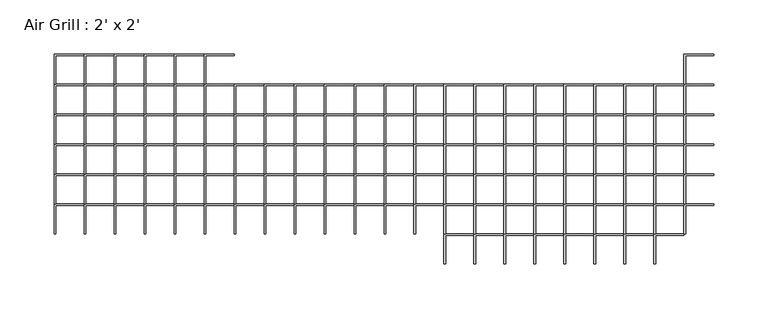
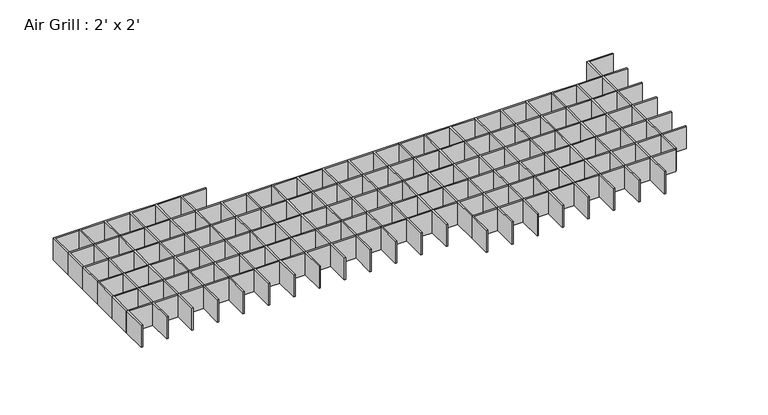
"""IFC4 building model written with IfcOpenShell, lengths in millimetres: proxy geometry, Air Grill : 2' x 2'."""

from ifc_helpers import new_model, si_unit, frame, origin, place, context, project, spatial, polyline, outline, extrude, source, transform, mapped, element, save


def air_grill_2_x_2_69e3441c(model_context):
    return source(origin(), model_context, "Body", "SweptSolid", [
        extrude(outline(polyline([(-166.6153409, 138.9784091), (-138.9784091, 138.9784091), (-138.9784091, 137.3909091), (-165.0278409, 137.3909091), (-165.0278409, 111.3414773), (-166.6153409, 111.3414773), (-166.6153409, 138.9784091)])), frame((0.0, 0.0, 2438.4), z_axis=(0.0, 0.0, 1.0), x_axis=(1.0, 0.0, 0.0)), (0.0, 0.0, 1.0), 25.4),
        extrude(outline(polyline([(-194.2522727, 138.9784091), (-166.6153409, 138.9784091), (-166.6153409, 137.3909091), (-192.6647727, 137.3909091), (-192.6647727, 111.3414773), (-194.2522727, 111.3414773), (-194.2522727, 138.9784091)])), frame((0.0, 0.0, 2438.4), z_axis=(0.0, 0.0, 1.0), x_axis=(1.0, 0.0, 0.0)), (0.0, 0.0, 1.0), 25.4),
        extrude(outline(polyline([(-221.8892045, 138.9784091), (-194.2522727, 138.9784091), (-194.2522727, 137.3909091), (-220.3017045, 137.3909091), (-220.3017045, 111.3414773), (-221.8892045, 111.3414773), (-221.8892045, 138.9784091)])), frame((0.0, 0.0, 2438.4), z_axis=(0.0, 0.0, 1.0), x_axis=(1.0, 0.0, 0.0)), (0.0, 0.0, 1.0), 25.4),
        extrude(outline(polyline([(-249.5261364, 138.9784091), (-221.8892045, 138.9784091), (-221.8892045, 137.3909091), (-247.9386364, 137.3909091), (-247.9386364, 111.3414773), (-249.5261364, 111.3414773), (-249.5261364, 138.9784091)])), frame((0.0, 0.0, 2438.4), z_axis=(0.0, 0.0, 1.0), x_axis=(1.0, 0.0, 0.0)), (0.0, 0.0, 1.0), 25.4),
        extrude(outline(polyline([(-277.1630682, 138.9784091), (-249.5261364, 138.9784091), (-249.5261364, 137.3909091), (-275.5755682, 137.3909091), (-275.5755682, 111.3414773), (-277.1630682, 111.3414773), (-277.1630682, 138.9784091)])), frame((0.0, 0.0, 2438.4), z_axis=(0.0, 0.0, 1.0), x_axis=(1.0, 0.0, 0.0)), (0.0, 0.0, 1.0), 25.4),
        extrude(outline(polyline([(275.5755682, 138.9784091), (303.2125, 138.9784091), (303.2125, 137.3909091), (277.1630682, 137.3909091), (277.1630682, 111.3414773), (275.5755682, 111.3414773), (275.5755682, 138.9784091)])), frame((0.0, 0.0, 2438.4), z_axis=(0.0, 0.0, 1.0), x_axis=(1.0, 0.0, 0.0)), (0.0, 0.0, 1.0), 25.4),
        extrude(outline(polyline([(-304.8, 138.9784091), (-277.1630682, 138.9784091), (-277.1630682, 137.3909091), (-303.2125, 137.3909091), (-303.2125, 111.3414773), (-304.8, 111.3414773), (-304.8, 138.9784091)])), frame((0.0, 0.0, 2438.4), z_axis=(0.0, 0.0, 1.0), x_axis=(1.0, 0.0, 0.0)), (0.0, 0.0, 1.0), 25.4),
        extrude(outline(polyline([(247.9386364, 111.3414773), (275.5755682, 111.3414773), (275.5755682, 109.7539773), (249.5261364, 109.7539773), (249.5261364, 83.7045455), (247.9386364, 83.7045455), (247.9386364, 111.3414773)])), frame((0.0, 0.0, 2438.4), z_axis=(0.0, 0.0, 1.0), x_axis=(1.0, 0.0, 0.0)), (0.0, 0.0, 1.0), 25.4),
        extrude(outline(polyline([(220.3017045, 111.3414773), (247.9386364, 111.3414773), (247.9386364, 109.7539773), (221.8892045, 109.7539773), (221.8892045, 83.7045455), (220.3017045, 83.7045455), (220.3017045, 111.3414773)])), frame((0.0, 0.0, 2438.4), z_axis=(0.0, 0.0, 1.0), x_axis=(1.0, 0.0, 0.0)), (0.0, 0.0, 1.0), 25.4),
        extrude(outline(polyline([(192.6647727, 111.3414773), (220.3017045, 111.3414773), (220.3017045, 109.7539773), (194.2522727, 109.7539773), (194.2522727, 83.7045455), (192.6647727, 83.7045455), (192.6647727, 111.3414773)])), frame((0.0, 0.0, 2438.4), z_axis=(0.0, 0.0, 1.0), x_axis=(1.0, 0.0, 0.0)), (0.0, 0.0, 1.0), 25.4),
        extrude(outline(polyline([(165.0278409, 111.3414773), (192.6647727, 111.3414773), (192.6647727, 109.7539773), (166.6153409, 109.7539773), (166.6153409, 83.7045455), (165.0278409, 83.7045455), (165.0278409, 111.3414773)])), frame((0.0, 0.0, 2438.4), z_axis=(0.0, 0.0, 1.0), x_axis=(1.0, 0.0, 0.0)), (0.0, 0.0, 1.0), 25.4),
        extrude(outline(polyline([(137.3909091, 111.3414773), (165.0278409, 111.3414773), (165.0278409, 109.7539773), (138.9784091, 109.7539773), (138.9784091, 83.7045455), (137.3909091, 83.7045455), (137.3909091, 111.3414773)])), frame((0.0, 0.0, 2438.4), z_axis=(0.0, 0.0, 1.0), x_axis=(1.0, 0.0, 0.0)), (0.0, 0.0, 1.0), 25.4),
        extrude(outline(polyline([(109.7539773, 111.3414773), (137.3909091, 111.3414773), (137.3909091, 109.7539773), (111.3414773, 109.7539773), (111.3414773, 83.7045455), (109.7539773, 83.7045455), (109.7539773, 111.3414773)])), frame((0.0, 0.0, 2438.4), z_axis=(0.0, 0.0, 1.0), x_axis=(1.0, 0.0, 0.0)), (0.0, 0.0, 1.0), 25.4),
        extrude(outline(polyline([(82.1170455, 111.3414773), (109.7539773, 111.3414773), (109.7539773, 109.7539773), (83.7045455, 109.7539773), (83.7045455, 83.7045455), (82.1170455, 83.7045455), (82.1170455, 111.3414773)])), frame((0.0, 0.0, 2438.4), z_axis=(0.0, 0.0, 1.0), x_axis=(1.0, 0.0, 0.0)), (0.0, 0.0, 1.0), 25.4),
        extrude(outline(polyline([(54.4801136, 111.3414773), (82.1170455, 111.3414773), (82.1170455, 109.7539773), (56.0676136, 109.7539773), (56.0676136, 83.7045455), (54.4801136, 83.7045455), (54.4801136, 111.3414773)])), frame((0.0, 0.0, 2438.4), z_axis=(0.0, 0.0, 1.0), x_axis=(1.0, 0.0, 0.0)), (0.0, 0.0, 1.0), 25.4),
        extrude(outline(polyline([(26.8431818, 111.3414773), (54.4801136, 111.3414773), (54.4801136, 109.7539773), (28.4306818, 109.7539773), (28.4306818, 83.7045455), (26.8431818, 83.7045455), (26.8431818, 111.3414773)])), frame((0.0, 0.0, 2438.4), z_axis=(0.0, 0.0, 1.0), x_axis=(1.0, 0.0, 0.0)), (0.0, 0.0, 1.0), 25.4),
        extrude(outline(polyline([(-0.79375, 111.3414773), (26.8431818, 111.3414773), (26.8431818, 109.7539773), (0.79375, 109.7539773), (0.79375, 83.7045455), (-0.79375, 83.7045455), (-0.79375, 111.3414773)])), frame((0.0, 0.0, 2438.4), z_axis=(0.0, 0.0, 1.0), x_axis=(1.0, 0.0, 0.0)), (0.0, 0.0, 1.0), 25.4),
        extrude(outline(polyline([(-28.4306818, 111.3414773), (-0.79375, 111.3414773), (-0.79375, 109.7539773), (-26.8431818, 109.7539773), (-26.8431818, 83.7045455), (-28.4306818, 83.7045455), (-28.4306818, 111.3414773)])), frame((0.0, 0.0, 2438.4), z_axis=(0.0, 0.0, 1.0), x_axis=(1.0, 0.0, 0.0)), (0.0, 0.0, 1.0), 25.4),
        extrude(outline(polyline([(-56.0676136, 111.3414773), (-28.4306818, 111.3414773), (-28.4306818, 109.7539773), (-54.4801136, 109.7539773), (-54.4801136, 83.7045455), (-56.0676136, 83.7045455), (-56.0676136, 111.3414773)])), frame((0.0, 0.0, 2438.4), z_axis=(0.0, 0.0, 1.0), x_axis=(1.0, 0.0, 0.0)), (0.0, 0.0, 1.0), 25.4),
        extrude(outline(polyline([(-83.7045455, 111.3414773), (-56.0676136, 111.3414773), (-56.0676136, 109.7539773), (-82.1170455, 109.7539773), (-82.1170455, 83.7045455), (-83.7045455, 83.7045455), (-83.7045455, 111.3414773)])), frame((0.0, 0.0, 2438.4), z_axis=(0.0, 0.0, 1.0), x_axis=(1.0, 0.0, 0.0)), (0.0, 0.0, 1.0), 25.4),
        extrude(outline(polyline([(-111.3414773, 111.3414773), (-83.7045455, 111.3414773), (-83.7045455, 109.7539773), (-109.7539773, 109.7539773), (-109.7539773, 83.7045455), (-111.3414773, 83.7045455), (-111.3414773, 111.3414773)])), frame((0.0, 0.0, 2438.4), z_axis=(0.0, 0.0, 1.0), x_axis=(1.0, 0.0, 0.0)), (0.0, 0.0, 1.0), 25.4),
        extrude(outline(polyline([(-138.9784091, 111.3414773), (-111.3414773, 111.3414773), (-111.3414773, 109.7539773), (-137.3909091, 109.7539773), (-137.3909091, 83.7045455), (-138.9784091, 83.7045455), (-138.9784091, 111.3414773)])), frame((0.0, 0.0, 2438.4), z_axis=(0.0, 0.0, 1.0), x_axis=(1.0, 0.0, 0.0)), (0.0, 0.0, 1.0), 25.4),
        extrude(outline(polyline([(-166.6153409, 111.3414773), (-138.9784091, 111.3414773), (-138.9784091, 109.7539773), (-165.0278409, 109.7539773), (-165.0278409, 83.7045455), (-166.6153409, 83.7045455), (-166.6153409, 111.3414773)])), frame((0.0, 0.0, 2438.4), z_axis=(0.0, 0.0, 1.0), x_axis=(1.0, 0.0, 0.0)), (0.0, 0.0, 1.0), 25.4),
        extrude(outline(polyline([(-194.2522727, 111.3414773), (-166.6153409, 111.3414773), (-166.6153409, 109.7539773), (-192.6647727, 109.7539773), (-192.6647727, 83.7045455), (-194.2522727, 83.7045455), (-194.2522727, 111.3414773)])), frame((0.0, 0.0, 2438.4), z_axis=(0.0, 0.0, 1.0), x_axis=(1.0, 0.0, 0.0)), (0.0, 0.0, 1.0), 25.4),
        extrude(outline(polyline([(-221.8892045, 111.3414773), (-194.2522727, 111.3414773), (-194.2522727, 109.7539773), (-220.3017045, 109.7539773), (-220.3017045, 83.7045455), (-221.8892045, 83.7045455), (-221.8892045, 111.3414773)])), frame((0.0, 0.0, 2438.4), z_axis=(0.0, 0.0, 1.0), x_axis=(1.0, 0.0, 0.0)), (0.0, 0.0, 1.0), 25.4),
        extrude(outline(polyline([(-249.5261364, 111.3414773), (-221.8892045, 111.3414773), (-221.8892045, 109.7539773), (-247.9386364, 109.7539773), (-247.9386364, 83.7045455), (-249.5261364, 83.7045455), (-249.5261364, 111.3414773)])), frame((0.0, 0.0, 2438.4), z_axis=(0.0, 0.0, 1.0), x_axis=(1.0, 0.0, 0.0)), (0.0, 0.0, 1.0), 25.4),
        extrude(outline(polyline([(-277.1630682, 111.3414773), (-249.5261364, 111.3414773), (-249.5261364, 109.7539773), (-275.5755682, 109.7539773), (-275.5755682, 83.7045455), (-277.1630682, 83.7045455), (-277.1630682, 111.3414773)])), frame((0.0, 0.0, 2438.4), z_axis=(0.0, 0.0, 1.0), x_axis=(1.0, 0.0, 0.0)), (0.0, 0.0, 1.0), 25.4),
        extrude(outline(polyline([(275.5755682, 111.3414773), (303.2125, 111.3414773), (303.2125, 109.7539773), (277.1630682, 109.7539773), (277.1630682, 83.7045455), (275.5755682, 83.7045455), (275.5755682, 111.3414773)])), frame((0.0, 0.0, 2438.4), z_axis=(0.0, 0.0, 1.0), x_axis=(1.0, 0.0, 0.0)), (0.0, 0.0, 1.0), 25.4),
        extrude(outline(polyline([(-304.8, 111.3414773), (-277.1630682, 111.3414773), (-277.1630682, 109.7539773), (-303.2125, 109.7539773), (-303.2125, 83.7045455), (-304.8, 83.7045455), (-304.8, 111.3414773)])), frame((0.0, 0.0, 2438.4), z_axis=(0.0, 0.0, 1.0), x_axis=(1.0, 0.0, 0.0)), (0.0, 0.0, 1.0), 25.4),
        extrude(outline(polyline([(247.9386364, 83.7045455), (275.5755682, 83.7045455), (275.5755682, 82.1170455), (249.5261364, 82.1170455), (249.5261364, 56.0676136), (247.9386364, 56.0676136), (247.9386364, 83.7045455)])), frame((0.0, 0.0, 2438.4), z_axis=(0.0, 0.0, 1.0), x_axis=(1.0, 0.0, 0.0)), (0.0, 0.0, 1.0), 25.4),
        extrude(outline(polyline([(220.3017045, 83.7045455), (247.9386364, 83.7045455), (247.9386364, 82.1170455), (221.8892045, 82.1170455), (221.8892045, 56.0676136), (220.3017045, 56.0676136), (220.3017045, 83.7045455)])), frame((0.0, 0.0, 2438.4), z_axis=(0.0, 0.0, 1.0), x_axis=(1.0, 0.0, 0.0)), (0.0, 0.0, 1.0), 25.4),
        extrude(outline(polyline([(192.6647727, 83.7045455), (220.3017045, 83.7045455), (220.3017045, 82.1170455), (194.2522727, 82.1170455), (194.2522727, 56.0676136), (192.6647727, 56.0676136), (192.6647727, 83.7045455)])), frame((0.0, 0.0, 2438.4), z_axis=(0.0, 0.0, 1.0), x_axis=(1.0, 0.0, 0.0)), (0.0, 0.0, 1.0), 25.4),
        extrude(outline(polyline([(165.0278409, 83.7045455), (192.6647727, 83.7045455), (192.6647727, 82.1170455), (166.6153409, 82.1170455), (166.6153409, 56.0676136), (165.0278409, 56.0676136), (165.0278409, 83.7045455)])), frame((0.0, 0.0, 2438.4), z_axis=(0.0, 0.0, 1.0), x_axis=(1.0, 0.0, 0.0)), (0.0, 0.0, 1.0), 25.4),
        extrude(outline(polyline([(137.3909091, 83.7045455), (165.0278409, 83.7045455), (165.0278409, 82.1170455), (138.9784091, 82.1170455), (138.9784091, 56.0676136), (137.3909091, 56.0676136), (137.3909091, 83.7045455)])), frame((0.0, 0.0, 2438.4), z_axis=(0.0, 0.0, 1.0), x_axis=(1.0, 0.0, 0.0)), (0.0, 0.0, 1.0), 25.4),
        extrude(outline(polyline([(109.7539773, 83.7045455), (137.3909091, 83.7045455), (137.3909091, 82.1170455), (111.3414773, 82.1170455), (111.3414773, 56.0676136), (109.7539773, 56.0676136), (109.7539773, 83.7045455)])), frame((0.0, 0.0, 2438.4), z_axis=(0.0, 0.0, 1.0), x_axis=(1.0, 0.0, 0.0)), (0.0, 0.0, 1.0), 25.4),
        extrude(outline(polyline([(82.1170455, 83.7045455), (109.7539773, 83.7045455), (109.7539773, 82.1170455), (83.7045455, 82.1170455), (83.7045455, 56.0676136), (82.1170455, 56.0676136), (82.1170455, 83.7045455)])), frame((0.0, 0.0, 2438.4), z_axis=(0.0, 0.0, 1.0), x_axis=(1.0, 0.0, 0.0)), (0.0, 0.0, 1.0), 25.4),
        extrude(outline(polyline([(54.4801136, 83.7045455), (82.1170455, 83.7045455), (82.1170455, 82.1170455), (56.0676136, 82.1170455), (56.0676136, 56.0676136), (54.4801136, 56.0676136), (54.4801136, 83.7045455)])), frame((0.0, 0.0, 2438.4), z_axis=(0.0, 0.0, 1.0), x_axis=(1.0, 0.0, 0.0)), (0.0, 0.0, 1.0), 25.4),
        extrude(outline(polyline([(26.8431818, 83.7045455), (54.4801136, 83.7045455), (54.4801136, 82.1170455), (28.4306818, 82.1170455), (28.4306818, 56.0676136), (26.8431818, 56.0676136), (26.8431818, 83.7045455)])), frame((0.0, 0.0, 2438.4), z_axis=(0.0, 0.0, 1.0), x_axis=(1.0, 0.0, 0.0)), (0.0, 0.0, 1.0), 25.4),
        extrude(outline(polyline([(-0.79375, 83.7045455), (26.8431818, 83.7045455), (26.8431818, 82.1170455), (0.79375, 82.1170455), (0.79375, 56.0676136), (-0.79375, 56.0676136), (-0.79375, 83.7045455)])), frame((0.0, 0.0, 2438.4), z_axis=(0.0, 0.0, 1.0), x_axis=(1.0, 0.0, 0.0)), (0.0, 0.0, 1.0), 25.4),
        extrude(outline(polyline([(-28.4306818, 83.7045455), (-0.79375, 83.7045455), (-0.79375, 82.1170455), (-26.8431818, 82.1170455), (-26.8431818, 56.0676136), (-28.4306818, 56.0676136), (-28.4306818, 83.7045455)])), frame((0.0, 0.0, 2438.4), z_axis=(0.0, 0.0, 1.0), x_axis=(1.0, 0.0, 0.0)), (0.0, 0.0, 1.0), 25.4),
        extrude(outline(polyline([(-56.0676136, 83.7045455), (-28.4306818, 83.7045455), (-28.4306818, 82.1170455), (-54.4801136, 82.1170455), (-54.4801136, 56.0676136), (-56.0676136, 56.0676136), (-56.0676136, 83.7045455)])), frame((0.0, 0.0, 2438.4), z_axis=(0.0, 0.0, 1.0), x_axis=(1.0, 0.0, 0.0)), (0.0, 0.0, 1.0), 25.4),
        extrude(outline(polyline([(-83.7045455, 83.7045455), (-56.0676136, 83.7045455), (-56.0676136, 82.1170455), (-82.1170455, 82.1170455), (-82.1170455, 56.0676136), (-83.7045455, 56.0676136), (-83.7045455, 83.7045455)])), frame((0.0, 0.0, 2438.4), z_axis=(0.0, 0.0, 1.0), x_axis=(1.0, 0.0, 0.0)), (0.0, 0.0, 1.0), 25.4),
        extrude(outline(polyline([(-111.3414773, 83.7045455), (-83.7045455, 83.7045455), (-83.7045455, 82.1170455), (-109.7539773, 82.1170455), (-109.7539773, 56.0676136), (-111.3414773, 56.0676136), (-111.3414773, 83.7045455)])), frame((0.0, 0.0, 2438.4), z_axis=(0.0, 0.0, 1.0), x_axis=(1.0, 0.0, 0.0)), (0.0, 0.0, 1.0), 25.4),
        extrude(outline(polyline([(-138.9784091, 83.7045455), (-111.3414773, 83.7045455), (-111.3414773, 82.1170455), (-137.3909091, 82.1170455), (-137.3909091, 56.0676136), (-138.9784091, 56.0676136), (-138.9784091, 83.7045455)])), frame((0.0, 0.0, 2438.4), z_axis=(0.0, 0.0, 1.0), x_axis=(1.0, 0.0, 0.0)), (0.0, 0.0, 1.0), 25.4),
        extrude(outline(polyline([(-166.6153409, 83.7045455), (-138.9784091, 83.7045455), (-138.9784091, 82.1170455), (-165.0278409, 82.1170455), (-165.0278409, 56.0676136), (-166.6153409, 56.0676136), (-166.6153409, 83.7045455)])), frame((0.0, 0.0, 2438.4), z_axis=(0.0, 0.0, 1.0), x_axis=(1.0, 0.0, 0.0)), (0.0, 0.0, 1.0), 25.4),
        extrude(outline(polyline([(-194.2522727, 83.7045455), (-166.6153409, 83.7045455), (-166.6153409, 82.1170455), (-192.6647727, 82.1170455), (-192.6647727, 56.0676136), (-194.2522727, 56.0676136), (-194.2522727, 83.7045455)])), frame((0.0, 0.0, 2438.4), z_axis=(0.0, 0.0, 1.0), x_axis=(1.0, 0.0, 0.0)), (0.0, 0.0, 1.0), 25.4),
        extrude(outline(polyline([(-221.8892045, 83.7045455), (-194.2522727, 83.7045455), (-194.2522727, 82.1170455), (-220.3017045, 82.1170455), (-220.3017045, 56.0676136), (-221.8892045, 56.0676136), (-221.8892045, 83.7045455)])), frame((0.0, 0.0, 2438.4), z_axis=(0.0, 0.0, 1.0), x_axis=(1.0, 0.0, 0.0)), (0.0, 0.0, 1.0), 25.4),
        extrude(outline(polyline([(-249.5261364, 83.7045455), (-221.8892045, 83.7045455), (-221.8892045, 82.1170455), (-247.9386364, 82.1170455), (-247.9386364, 56.0676136), (-249.5261364, 56.0676136), (-249.5261364, 83.7045455)])), frame((0.0, 0.0, 2438.4), z_axis=(0.0, 0.0, 1.0), x_axis=(1.0, 0.0, 0.0)), (0.0, 0.0, 1.0), 25.4),
        extrude(outline(polyline([(-277.1630682, 83.7045455), (-249.5261364, 83.7045455), (-249.5261364, 82.1170455), (-275.5755682, 82.1170455), (-275.5755682, 56.0676136), (-277.1630682, 56.0676136), (-277.1630682, 83.7045455)])), frame((0.0, 0.0, 2438.4), z_axis=(0.0, 0.0, 1.0), x_axis=(1.0, 0.0, 0.0)), (0.0, 0.0, 1.0), 25.4),
        extrude(outline(polyline([(275.5755682, 83.7045455), (303.2125, 83.7045455), (303.2125, 82.1170455), (277.1630682, 82.1170455), (277.1630682, 56.0676136), (275.5755682, 56.0676136), (275.5755682, 83.7045455)])), frame((0.0, 0.0, 2438.4), z_axis=(0.0, 0.0, 1.0), x_axis=(1.0, 0.0, 0.0)), (0.0, 0.0, 1.0), 25.4),
        extrude(outline(polyline([(-304.8, 83.7045455), (-277.1630682, 83.7045455), (-277.1630682, 82.1170455), (-303.2125, 82.1170455), (-303.2125, 56.0676136), (-304.8, 56.0676136), (-304.8, 83.7045455)])), frame((0.0, 0.0, 2438.4), z_axis=(0.0, 0.0, 1.0), x_axis=(1.0, 0.0, 0.0)), (0.0, 0.0, 1.0), 25.4),
        extrude(outline(polyline([(247.9386364, 56.0676136), (275.5755682, 56.0676136), (275.5755682, 54.4801136), (249.5261364, 54.4801136), (249.5261364, 28.4306818), (247.9386364, 28.4306818), (247.9386364, 56.0676136)])), frame((0.0, 0.0, 2438.4), z_axis=(0.0, 0.0, 1.0), x_axis=(1.0, 0.0, 0.0)), (0.0, 0.0, 1.0), 25.4),
        extrude(outline(polyline([(220.3017045, 56.0676136), (247.9386364, 56.0676136), (247.9386364, 54.4801136), (221.8892045, 54.4801136), (221.8892045, 28.4306818), (220.3017045, 28.4306818), (220.3017045, 56.0676136)])), frame((0.0, 0.0, 2438.4), z_axis=(0.0, 0.0, 1.0), x_axis=(1.0, 0.0, 0.0)), (0.0, 0.0, 1.0), 25.4),
        extrude(outline(polyline([(192.6647727, 56.0676136), (220.3017045, 56.0676136), (220.3017045, 54.4801136), (194.2522727, 54.4801136), (194.2522727, 28.4306818), (192.6647727, 28.4306818), (192.6647727, 56.0676136)])), frame((0.0, 0.0, 2438.4), z_axis=(0.0, 0.0, 1.0), x_axis=(1.0, 0.0, 0.0)), (0.0, 0.0, 1.0), 25.4),
        extrude(outline(polyline([(165.0278409, 56.0676136), (192.6647727, 56.0676136), (192.6647727, 54.4801136), (166.6153409, 54.4801136), (166.6153409, 28.4306818), (165.0278409, 28.4306818), (165.0278409, 56.0676136)])), frame((0.0, 0.0, 2438.4), z_axis=(0.0, 0.0, 1.0), x_axis=(1.0, 0.0, 0.0)), (0.0, 0.0, 1.0), 25.4),
        extrude(outline(polyline([(137.3909091, 56.0676136), (165.0278409, 56.0676136), (165.0278409, 54.4801136), (138.9784091, 54.4801136), (138.9784091, 28.4306818), (137.3909091, 28.4306818), (137.3909091, 56.0676136)])), frame((0.0, 0.0, 2438.4), z_axis=(0.0, 0.0, 1.0), x_axis=(1.0, 0.0, 0.0)), (0.0, 0.0, 1.0), 25.4),
        extrude(outline(polyline([(109.7539773, 56.0676136), (137.3909091, 56.0676136), (137.3909091, 54.4801136), (111.3414773, 54.4801136), (111.3414773, 28.4306818), (109.7539773, 28.4306818), (109.7539773, 56.0676136)])), frame((0.0, 0.0, 2438.4), z_axis=(0.0, 0.0, 1.0), x_axis=(1.0, 0.0, 0.0)), (0.0, 0.0, 1.0), 25.4),
        extrude(outline(polyline([(82.1170455, 56.0676136), (109.7539773, 56.0676136), (109.7539773, 54.4801136), (83.7045455, 54.4801136), (83.7045455, 28.4306818), (82.1170455, 28.4306818), (82.1170455, 56.0676136)])), frame((0.0, 0.0, 2438.4), z_axis=(0.0, 0.0, 1.0), x_axis=(1.0, 0.0, 0.0)), (0.0, 0.0, 1.0), 25.4),
        extrude(outline(polyline([(54.4801136, 56.0676136), (82.1170455, 56.0676136), (82.1170455, 54.4801136), (56.0676136, 54.4801136), (56.0676136, 28.4306818), (54.4801136, 28.4306818), (54.4801136, 56.0676136)])), frame((0.0, 0.0, 2438.4), z_axis=(0.0, 0.0, 1.0), x_axis=(1.0, 0.0, 0.0)), (0.0, 0.0, 1.0), 25.4),
        extrude(outline(polyline([(26.8431818, 56.0676136), (54.4801136, 56.0676136), (54.4801136, 54.4801136), (28.4306818, 54.4801136), (28.4306818, 28.4306818), (26.8431818, 28.4306818), (26.8431818, 56.0676136)])), frame((0.0, 0.0, 2438.4), z_axis=(0.0, 0.0, 1.0), x_axis=(1.0, 0.0, 0.0)), (0.0, 0.0, 1.0), 25.4),
        extrude(outline(polyline([(-0.79375, 56.0676136), (26.8431818, 56.0676136), (26.8431818, 54.4801136), (0.79375, 54.4801136), (0.79375, 28.4306818), (-0.79375, 28.4306818), (-0.79375, 56.0676136)])), frame((0.0, 0.0, 2438.4), z_axis=(0.0, 0.0, 1.0), x_axis=(1.0, 0.0, 0.0)), (0.0, 0.0, 1.0), 25.4),
        extrude(outline(polyline([(-28.4306818, 56.0676136), (-0.79375, 56.0676136), (-0.79375, 54.4801136), (-26.8431818, 54.4801136), (-26.8431818, 28.4306818), (-28.4306818, 28.4306818), (-28.4306818, 56.0676136)])), frame((0.0, 0.0, 2438.4), z_axis=(0.0, 0.0, 1.0), x_axis=(1.0, 0.0, 0.0)), (0.0, 0.0, 1.0), 25.4),
        extrude(outline(polyline([(-56.0676136, 56.0676136), (-28.4306818, 56.0676136), (-28.4306818, 54.4801136), (-54.4801136, 54.4801136), (-54.4801136, 28.4306818), (-56.0676136, 28.4306818), (-56.0676136, 56.0676136)])), frame((0.0, 0.0, 2438.4), z_axis=(0.0, 0.0, 1.0), x_axis=(1.0, 0.0, 0.0)), (0.0, 0.0, 1.0), 25.4),
        extrude(outline(polyline([(-83.7045455, 56.0676136), (-56.0676136, 56.0676136), (-56.0676136, 54.4801136), (-82.1170455, 54.4801136), (-82.1170455, 28.4306818), (-83.7045455, 28.4306818), (-83.7045455, 56.0676136)])), frame((0.0, 0.0, 2438.4), z_axis=(0.0, 0.0, 1.0), x_axis=(1.0, 0.0, 0.0)), (0.0, 0.0, 1.0), 25.4),
        extrude(outline(polyline([(-111.3414773, 56.0676136), (-83.7045455, 56.0676136), (-83.7045455, 54.4801136), (-109.7539773, 54.4801136), (-109.7539773, 28.4306818), (-111.3414773, 28.4306818), (-111.3414773, 56.0676136)])), frame((0.0, 0.0, 2438.4), z_axis=(0.0, 0.0, 1.0), x_axis=(1.0, 0.0, 0.0)), (0.0, 0.0, 1.0), 25.4),
        extrude(outline(polyline([(-138.9784091, 56.0676136), (-111.3414773, 56.0676136), (-111.3414773, 54.4801136), (-137.3909091, 54.4801136), (-137.3909091, 28.4306818), (-138.9784091, 28.4306818), (-138.9784091, 56.0676136)])), frame((0.0, 0.0, 2438.4), z_axis=(0.0, 0.0, 1.0), x_axis=(1.0, 0.0, 0.0)), (0.0, 0.0, 1.0), 25.4),
        extrude(outline(polyline([(-166.6153409, 56.0676136), (-138.9784091, 56.0676136), (-138.9784091, 54.4801136), (-165.0278409, 54.4801136), (-165.0278409, 28.4306818), (-166.6153409, 28.4306818), (-166.6153409, 56.0676136)])), frame((0.0, 0.0, 2438.4), z_axis=(0.0, 0.0, 1.0), x_axis=(1.0, 0.0, 0.0)), (0.0, 0.0, 1.0), 25.4),
        extrude(outline(polyline([(-194.2522727, 56.0676136), (-166.6153409, 56.0676136), (-166.6153409, 54.4801136), (-192.6647727, 54.4801136), (-192.6647727, 28.4306818), (-194.2522727, 28.4306818), (-194.2522727, 56.0676136)])), frame((0.0, 0.0, 2438.4), z_axis=(0.0, 0.0, 1.0), x_axis=(1.0, 0.0, 0.0)), (0.0, 0.0, 1.0), 25.4),
        extrude(outline(polyline([(-221.8892045, 56.0676136), (-194.2522727, 56.0676136), (-194.2522727, 54.4801136), (-220.3017045, 54.4801136), (-220.3017045, 28.4306818), (-221.8892045, 28.4306818), (-221.8892045, 56.0676136)])), frame((0.0, 0.0, 2438.4), z_axis=(0.0, 0.0, 1.0), x_axis=(1.0, 0.0, 0.0)), (0.0, 0.0, 1.0), 25.4),
        extrude(outline(polyline([(-249.5261364, 56.0676136), (-221.8892045, 56.0676136), (-221.8892045, 54.4801136), (-247.9386364, 54.4801136), (-247.9386364, 28.4306818), (-249.5261364, 28.4306818), (-249.5261364, 56.0676136)])), frame((0.0, 0.0, 2438.4), z_axis=(0.0, 0.0, 1.0), x_axis=(1.0, 0.0, 0.0)), (0.0, 0.0, 1.0), 25.4),
        extrude(outline(polyline([(-277.1630682, 56.0676136), (-249.5261364, 56.0676136), (-249.5261364, 54.4801136), (-275.5755682, 54.4801136), (-275.5755682, 28.4306818), (-277.1630682, 28.4306818), (-277.1630682, 56.0676136)])), frame((0.0, 0.0, 2438.4), z_axis=(0.0, 0.0, 1.0), x_axis=(1.0, 0.0, 0.0)), (0.0, 0.0, 1.0), 25.4),
        extrude(outline(polyline([(275.5755682, 56.0676136), (303.2125, 56.0676136), (303.2125, 54.4801136), (277.1630682, 54.4801136), (277.1630682, 28.4306818), (275.5755682, 28.4306818), (275.5755682, 56.0676136)])), frame((0.0, 0.0, 2438.4), z_axis=(0.0, 0.0, 1.0), x_axis=(1.0, 0.0, 0.0)), (0.0, 0.0, 1.0), 25.4),
        extrude(outline(polyline([(-304.8, 56.0676136), (-277.1630682, 56.0676136), (-277.1630682, 54.4801136), (-303.2125, 54.4801136), (-303.2125, 28.4306818), (-304.8, 28.4306818), (-304.8, 56.0676136)])), frame((0.0, 0.0, 2438.4), z_axis=(0.0, 0.0, 1.0), x_axis=(1.0, 0.0, 0.0)), (0.0, 0.0, 1.0), 25.4),
        extrude(outline(polyline([(247.9386364, 28.4306818), (275.5755682, 28.4306818), (275.5755682, 26.8431818), (249.5261364, 26.8431818), (249.5261364, 0.79375), (247.9386364, 0.79375), (247.9386364, 28.4306818)])), frame((0.0, 0.0, 2438.4), z_axis=(0.0, 0.0, 1.0), x_axis=(1.0, 0.0, 0.0)), (0.0, 0.0, 1.0), 25.4),
        extrude(outline(polyline([(220.3017045, 28.4306818), (247.9386364, 28.4306818), (247.9386364, 26.8431818), (221.8892045, 26.8431818), (221.8892045, 0.79375), (220.3017045, 0.79375), (220.3017045, 28.4306818)])), frame((0.0, 0.0, 2438.4), z_axis=(0.0, 0.0, 1.0), x_axis=(1.0, 0.0, 0.0)), (0.0, 0.0, 1.0), 25.4),
        extrude(outline(polyline([(192.6647727, 28.4306818), (220.3017045, 28.4306818), (220.3017045, 26.8431818), (194.2522727, 26.8431818), (194.2522727, 0.79375), (192.6647727, 0.79375), (192.6647727, 28.4306818)])), frame((0.0, 0.0, 2438.4), z_axis=(0.0, 0.0, 1.0), x_axis=(1.0, 0.0, 0.0)), (0.0, 0.0, 1.0), 25.4),
        extrude(outline(polyline([(165.0278409, 28.4306818), (192.6647727, 28.4306818), (192.6647727, 26.8431818), (166.6153409, 26.8431818), (166.6153409, 0.79375), (165.0278409, 0.79375), (165.0278409, 28.4306818)])), frame((0.0, 0.0, 2438.4), z_axis=(0.0, 0.0, 1.0), x_axis=(1.0, 0.0, 0.0)), (0.0, 0.0, 1.0), 25.4),
        extrude(outline(polyline([(137.3909091, 28.4306818), (165.0278409, 28.4306818), (165.0278409, 26.8431818), (138.9784091, 26.8431818), (138.9784091, 0.79375), (137.3909091, 0.79375), (137.3909091, 28.4306818)])), frame((0.0, 0.0, 2438.4), z_axis=(0.0, 0.0, 1.0), x_axis=(1.0, 0.0, 0.0)), (0.0, 0.0, 1.0), 25.4),
        extrude(outline(polyline([(109.7539773, 28.4306818), (137.3909091, 28.4306818), (137.3909091, 26.8431818), (111.3414773, 26.8431818), (111.3414773, 0.79375), (109.7539773, 0.79375), (109.7539773, 28.4306818)])), frame((0.0, 0.0, 2438.4), z_axis=(0.0, 0.0, 1.0), x_axis=(1.0, 0.0, 0.0)), (0.0, 0.0, 1.0), 25.4),
        extrude(outline(polyline([(82.1170455, 28.4306818), (109.7539773, 28.4306818), (109.7539773, 26.8431818), (83.7045455, 26.8431818), (83.7045455, 0.79375), (82.1170455, 0.79375), (82.1170455, 28.4306818)])), frame((0.0, 0.0, 2438.4), z_axis=(0.0, 0.0, 1.0), x_axis=(1.0, 0.0, 0.0)), (0.0, 0.0, 1.0), 25.4),
        extrude(outline(polyline([(54.4801136, 28.4306818), (82.1170455, 28.4306818), (82.1170455, 26.8431818), (56.0676136, 26.8431818), (56.0676136, 0.79375), (54.4801136, 0.79375), (54.4801136, 28.4306818)])), frame((0.0, 0.0, 2438.4), z_axis=(0.0, 0.0, 1.0), x_axis=(1.0, 0.0, 0.0)), (0.0, 0.0, 1.0), 25.4),
        extrude(outline(polyline([(26.8431818, 28.4306818), (54.4801136, 28.4306818), (54.4801136, 26.8431818), (28.4306818, 26.8431818), (28.4306818, 0.79375), (26.8431818, 0.79375), (26.8431818, 28.4306818)])), frame((0.0, 0.0, 2438.4), z_axis=(0.0, 0.0, 1.0), x_axis=(1.0, 0.0, 0.0)), (0.0, 0.0, 1.0), 25.4),
        extrude(outline(polyline([(-0.79375, 28.4306818), (26.8431818, 28.4306818), (26.8431818, 26.8431818), (0.79375, 26.8431818), (0.79375, 0.79375), (-0.79375, 0.79375), (-0.79375, 28.4306818)])), frame((0.0, 0.0, 2438.4), z_axis=(0.0, 0.0, 1.0), x_axis=(1.0, 0.0, 0.0)), (0.0, 0.0, 1.0), 25.4),
        extrude(outline(polyline([(-28.4306818, 28.4306818), (-0.79375, 28.4306818), (-0.79375, 26.8431818), (-26.8431818, 26.8431818), (-26.8431818, 0.79375), (-28.4306818, 0.79375), (-28.4306818, 28.4306818)])), frame((0.0, 0.0, 2438.4), z_axis=(0.0, 0.0, 1.0), x_axis=(1.0, 0.0, 0.0)), (0.0, 0.0, 1.0), 25.4),
        extrude(outline(polyline([(-56.0676136, 28.4306818), (-28.4306818, 28.4306818), (-28.4306818, 26.8431818), (-54.4801136, 26.8431818), (-54.4801136, 0.79375), (-56.0676136, 0.79375), (-56.0676136, 28.4306818)])), frame((0.0, 0.0, 2438.4), z_axis=(0.0, 0.0, 1.0), x_axis=(1.0, 0.0, 0.0)), (0.0, 0.0, 1.0), 25.4),
        extrude(outline(polyline([(-83.7045455, 28.4306818), (-56.0676136, 28.4306818), (-56.0676136, 26.8431818), (-82.1170455, 26.8431818), (-82.1170455, 0.79375), (-83.7045455, 0.79375), (-83.7045455, 28.4306818)])), frame((0.0, 0.0, 2438.4), z_axis=(0.0, 0.0, 1.0), x_axis=(1.0, 0.0, 0.0)), (0.0, 0.0, 1.0), 25.4),
        extrude(outline(polyline([(-111.3414773, 28.4306818), (-83.7045455, 28.4306818), (-83.7045455, 26.8431818), (-109.7539773, 26.8431818), (-109.7539773, 0.79375), (-111.3414773, 0.79375), (-111.3414773, 28.4306818)])), frame((0.0, 0.0, 2438.4), z_axis=(0.0, 0.0, 1.0), x_axis=(1.0, 0.0, 0.0)), (0.0, 0.0, 1.0), 25.4),
        extrude(outline(polyline([(-138.9784091, 28.4306818), (-111.3414773, 28.4306818), (-111.3414773, 26.8431818), (-137.3909091, 26.8431818), (-137.3909091, 0.79375), (-138.9784091, 0.79375), (-138.9784091, 28.4306818)])), frame((0.0, 0.0, 2438.4), z_axis=(0.0, 0.0, 1.0), x_axis=(1.0, 0.0, 0.0)), (0.0, 0.0, 1.0), 25.4),
        extrude(outline(polyline([(-166.6153409, 28.4306818), (-138.9784091, 28.4306818), (-138.9784091, 26.8431818), (-165.0278409, 26.8431818), (-165.0278409, 0.79375), (-166.6153409, 0.79375), (-166.6153409, 28.4306818)])), frame((0.0, 0.0, 2438.4), z_axis=(0.0, 0.0, 1.0), x_axis=(1.0, 0.0, 0.0)), (0.0, 0.0, 1.0), 25.4),
        extrude(outline(polyline([(-194.2522727, 28.4306818), (-166.6153409, 28.4306818), (-166.6153409, 26.8431818), (-192.6647727, 26.8431818), (-192.6647727, 0.79375), (-194.2522727, 0.79375), (-194.2522727, 28.4306818)])), frame((0.0, 0.0, 2438.4), z_axis=(0.0, 0.0, 1.0), x_axis=(1.0, 0.0, 0.0)), (0.0, 0.0, 1.0), 25.4),
        extrude(outline(polyline([(-221.8892045, 28.4306818), (-194.2522727, 28.4306818), (-194.2522727, 26.8431818), (-220.3017045, 26.8431818), (-220.3017045, 0.79375), (-221.8892045, 0.79375), (-221.8892045, 28.4306818)])), frame((0.0, 0.0, 2438.4), z_axis=(0.0, 0.0, 1.0), x_axis=(1.0, 0.0, 0.0)), (0.0, 0.0, 1.0), 25.4),
        extrude(outline(polyline([(-249.5261364, 28.4306818), (-221.8892045, 28.4306818), (-221.8892045, 26.8431818), (-247.9386364, 26.8431818), (-247.9386364, 0.79375), (-249.5261364, 0.79375), (-249.5261364, 28.4306818)])), frame((0.0, 0.0, 2438.4), z_axis=(0.0, 0.0, 1.0), x_axis=(1.0, 0.0, 0.0)), (0.0, 0.0, 1.0), 25.4),
        extrude(outline(polyline([(-277.1630682, 28.4306818), (-249.5261364, 28.4306818), (-249.5261364, 26.8431818), (-275.5755682, 26.8431818), (-275.5755682, 0.79375), (-277.1630682, 0.79375), (-277.1630682, 28.4306818)])), frame((0.0, 0.0, 2438.4), z_axis=(0.0, 0.0, 1.0), x_axis=(1.0, 0.0, 0.0)), (0.0, 0.0, 1.0), 25.4),
        extrude(outline(polyline([(275.5755682, 28.4306818), (303.2125, 28.4306818), (303.2125, 26.8431818), (277.1630682, 26.8431818), (277.1630682, 0.79375), (275.5755682, 0.79375), (275.5755682, 28.4306818)])), frame((0.0, 0.0, 2438.4), z_axis=(0.0, 0.0, 1.0), x_axis=(1.0, 0.0, 0.0)), (0.0, 0.0, 1.0), 25.4),
        extrude(outline(polyline([(-304.8, 28.4306818), (-277.1630682, 28.4306818), (-277.1630682, 26.8431818), (-303.2125, 26.8431818), (-303.2125, 0.79375), (-304.8, 0.79375), (-304.8, 28.4306818)])), frame((0.0, 0.0, 2438.4), z_axis=(0.0, 0.0, 1.0), x_axis=(1.0, 0.0, 0.0)), (0.0, 0.0, 1.0), 25.4),
        extrude(outline(polyline([(247.9386364, 0.79375), (275.5755682, 0.79375), (275.5755682, -0.79375), (249.5261364, -0.79375), (249.5261364, -26.8431818), (247.9386364, -26.8431818), (247.9386364, 0.79375)])), frame((0.0, 0.0, 2438.4), z_axis=(0.0, 0.0, 1.0), x_axis=(1.0, 0.0, 0.0)), (0.0, 0.0, 1.0), 25.4),
        extrude(outline(polyline([(220.3017045, 0.79375), (247.9386364, 0.79375), (247.9386364, -0.79375), (221.8892045, -0.79375), (221.8892045, -26.8431818), (220.3017045, -26.8431818), (220.3017045, 0.79375)])), frame((0.0, 0.0, 2438.4), z_axis=(0.0, 0.0, 1.0), x_axis=(1.0, 0.0, 0.0)), (0.0, 0.0, 1.0), 25.4),
        extrude(outline(polyline([(192.6647727, 0.79375), (220.3017045, 0.79375), (220.3017045, -0.79375), (194.2522727, -0.79375), (194.2522727, -26.8431818), (192.6647727, -26.8431818), (192.6647727, 0.79375)])), frame((0.0, 0.0, 2438.4), z_axis=(0.0, 0.0, 1.0), x_axis=(1.0, 0.0, 0.0)), (0.0, 0.0, 1.0), 25.4),
        extrude(outline(polyline([(165.0278409, 0.79375), (192.6647727, 0.79375), (192.6647727, -0.79375), (166.6153409, -0.79375), (166.6153409, -26.8431818), (165.0278409, -26.8431818), (165.0278409, 0.79375)])), frame((0.0, 0.0, 2438.4), z_axis=(0.0, 0.0, 1.0), x_axis=(1.0, 0.0, 0.0)), (0.0, 0.0, 1.0), 25.4),
        extrude(outline(polyline([(137.3909091, 0.79375), (165.0278409, 0.79375), (165.0278409, -0.79375), (138.9784091, -0.79375), (138.9784091, -26.8431818), (137.3909091, -26.8431818), (137.3909091, 0.79375)])), frame((0.0, 0.0, 2438.4), z_axis=(0.0, 0.0, 1.0), x_axis=(1.0, 0.0, 0.0)), (0.0, 0.0, 1.0), 25.4),
        extrude(outline(polyline([(109.7539773, 0.79375), (137.3909091, 0.79375), (137.3909091, -0.79375), (111.3414773, -0.79375), (111.3414773, -26.8431818), (109.7539773, -26.8431818), (109.7539773, 0.79375)])), frame((0.0, 0.0, 2438.4), z_axis=(0.0, 0.0, 1.0), x_axis=(1.0, 0.0, 0.0)), (0.0, 0.0, 1.0), 25.4),
        extrude(outline(polyline([(82.1170455, 0.79375), (109.7539773, 0.79375), (109.7539773, -0.79375), (83.7045455, -0.79375), (83.7045455, -26.8431818), (82.1170455, -26.8431818), (82.1170455, 0.79375)])), frame((0.0, 0.0, 2438.4), z_axis=(0.0, 0.0, 1.0), x_axis=(1.0, 0.0, 0.0)), (0.0, 0.0, 1.0), 25.4),
        extrude(outline(polyline([(54.4801136, 0.79375), (82.1170455, 0.79375), (82.1170455, -0.79375), (56.0676136, -0.79375), (56.0676136, -26.8431818), (54.4801136, -26.8431818), (54.4801136, 0.79375)])), frame((0.0, 0.0, 2438.4), z_axis=(0.0, 0.0, 1.0), x_axis=(1.0, 0.0, 0.0)), (0.0, 0.0, 1.0), 25.4),
        extrude(outline(polyline([(26.8431818, 0.79375), (54.4801136, 0.79375), (54.4801136, -0.79375), (28.4306818, -0.79375), (28.4306818, -26.8431818), (26.8431818, -26.8431818), (26.8431818, 0.79375)])), frame((0.0, 0.0, 2438.4), z_axis=(0.0, 0.0, 1.0), x_axis=(1.0, 0.0, 0.0)), (0.0, 0.0, 1.0), 25.4),
        extrude(outline(polyline([(-0.79375, 0.79375), (26.8431818, 0.79375), (26.8431818, -0.79375), (0.79375, -0.79375), (0.79375, -26.8431818), (-0.79375, -26.8431818), (-0.79375, 0.79375)])), frame((0.0, 0.0, 2438.4), z_axis=(0.0, 0.0, 1.0), x_axis=(1.0, 0.0, 0.0)), (0.0, 0.0, 1.0), 25.4),
        extrude(outline(polyline([(-28.4306818, 0.79375), (-0.79375, 0.79375), (-0.79375, -0.79375), (-26.8431818, -0.79375), (-26.8431818, -26.8431818), (-28.4306818, -26.8431818), (-28.4306818, 0.79375)])), frame((0.0, 0.0, 2438.4), z_axis=(0.0, 0.0, 1.0), x_axis=(1.0, 0.0, 0.0)), (0.0, 0.0, 1.0), 25.4),
        extrude(outline(polyline([(-56.0676136, 0.79375), (-28.4306818, 0.79375), (-28.4306818, -0.79375), (-54.4801136, -0.79375), (-54.4801136, -26.8431818), (-56.0676136, -26.8431818), (-56.0676136, 0.79375)])), frame((0.0, 0.0, 2438.4), z_axis=(0.0, 0.0, 1.0), x_axis=(1.0, 0.0, 0.0)), (0.0, 0.0, 1.0), 25.4),
        extrude(outline(polyline([(-83.7045455, 0.79375), (-56.0676136, 0.79375), (-56.0676136, -0.79375), (-82.1170455, -0.79375), (-82.1170455, -26.8431818), (-83.7045455, -26.8431818), (-83.7045455, 0.79375)])), frame((0.0, 0.0, 2438.4), z_axis=(0.0, 0.0, 1.0), x_axis=(1.0, 0.0, 0.0)), (0.0, 0.0, 1.0), 25.4),
        extrude(outline(polyline([(-111.3414773, 0.79375), (-83.7045455, 0.79375), (-83.7045455, -0.79375), (-109.7539773, -0.79375), (-109.7539773, -26.8431818), (-111.3414773, -26.8431818), (-111.3414773, 0.79375)])), frame((0.0, 0.0, 2438.4), z_axis=(0.0, 0.0, 1.0), x_axis=(1.0, 0.0, 0.0)), (0.0, 0.0, 1.0), 25.4),
        extrude(outline(polyline([(-138.9784091, 0.79375), (-111.3414773, 0.79375), (-111.3414773, -0.79375), (-137.3909091, -0.79375), (-137.3909091, -26.8431818), (-138.9784091, -26.8431818), (-138.9784091, 0.79375)])), frame((0.0, 0.0, 2438.4), z_axis=(0.0, 0.0, 1.0), x_axis=(1.0, 0.0, 0.0)), (0.0, 0.0, 1.0), 25.4),
        extrude(outline(polyline([(-166.6153409, 0.79375), (-138.9784091, 0.79375), (-138.9784091, -0.79375), (-165.0278409, -0.79375), (-165.0278409, -26.8431818), (-166.6153409, -26.8431818), (-166.6153409, 0.79375)])), frame((0.0, 0.0, 2438.4), z_axis=(0.0, 0.0, 1.0), x_axis=(1.0, 0.0, 0.0)), (0.0, 0.0, 1.0), 25.4),
        extrude(outline(polyline([(-194.2522727, 0.79375), (-166.6153409, 0.79375), (-166.6153409, -0.79375), (-192.6647727, -0.79375), (-192.6647727, -26.8431818), (-194.2522727, -26.8431818), (-194.2522727, 0.79375)])), frame((0.0, 0.0, 2438.4), z_axis=(0.0, 0.0, 1.0), x_axis=(1.0, 0.0, 0.0)), (0.0, 0.0, 1.0), 25.4),
        extrude(outline(polyline([(-221.8892045, 0.79375), (-194.2522727, 0.79375), (-194.2522727, -0.79375), (-220.3017045, -0.79375), (-220.3017045, -26.8431818), (-221.8892045, -26.8431818), (-221.8892045, 0.79375)])), frame((0.0, 0.0, 2438.4), z_axis=(0.0, 0.0, 1.0), x_axis=(1.0, 0.0, 0.0)), (0.0, 0.0, 1.0), 25.4),
        extrude(outline(polyline([(-249.5261364, 0.79375), (-221.8892045, 0.79375), (-221.8892045, -0.79375), (-247.9386364, -0.79375), (-247.9386364, -26.8431818), (-249.5261364, -26.8431818), (-249.5261364, 0.79375)])), frame((0.0, 0.0, 2438.4), z_axis=(0.0, 0.0, 1.0), x_axis=(1.0, 0.0, 0.0)), (0.0, 0.0, 1.0), 25.4),
        extrude(outline(polyline([(-277.1630682, 0.79375), (-249.5261364, 0.79375), (-249.5261364, -0.79375), (-275.5755682, -0.79375), (-275.5755682, -26.8431818), (-277.1630682, -26.8431818), (-277.1630682, 0.79375)])), frame((0.0, 0.0, 2438.4), z_axis=(0.0, 0.0, 1.0), x_axis=(1.0, 0.0, 0.0)), (0.0, 0.0, 1.0), 25.4),
        extrude(outline(polyline([(275.5755682, 0.79375), (303.2125, 0.79375), (303.2125, -0.79375), (277.1630682, -0.79375), (277.1630682, -26.8431818), (275.5755682, -26.8431818), (275.5755682, 0.79375)])), frame((0.0, 0.0, 2438.4), z_axis=(0.0, 0.0, 1.0), x_axis=(1.0, 0.0, 0.0)), (0.0, 0.0, 1.0), 25.4),
        extrude(outline(polyline([(-304.8, 0.79375), (-277.1630682, 0.79375), (-277.1630682, -0.79375), (-303.2125, -0.79375), (-303.2125, -26.8431818), (-304.8, -26.8431818), (-304.8, 0.79375)])), frame((0.0, 0.0, 2438.4), z_axis=(0.0, 0.0, 1.0), x_axis=(1.0, 0.0, 0.0)), (0.0, 0.0, 1.0), 25.4),
        extrude(outline(polyline([(247.9386364, -26.8431818), (275.5755682, -26.8431818), (275.5755682, -28.4306818), (249.5261364, -28.4306818), (249.5261364, -54.4801136), (247.9386364, -54.4801136), (247.9386364, -26.8431818)])), frame((0.0, 0.0, 2438.4), z_axis=(0.0, 0.0, 1.0), x_axis=(1.0, 0.0, 0.0)), (0.0, 0.0, 1.0), 25.4),
        extrude(outline(polyline([(220.3017045, -26.8431818), (247.9386364, -26.8431818), (247.9386364, -28.4306818), (221.8892045, -28.4306818), (221.8892045, -54.4801136), (220.3017045, -54.4801136), (220.3017045, -26.8431818)])), frame((0.0, 0.0, 2438.4), z_axis=(0.0, 0.0, 1.0), x_axis=(1.0, 0.0, 0.0)), (0.0, 0.0, 1.0), 25.4),
        extrude(outline(polyline([(192.6647727, -26.8431818), (220.3017045, -26.8431818), (220.3017045, -28.4306818), (194.2522727, -28.4306818), (194.2522727, -54.4801136), (192.6647727, -54.4801136), (192.6647727, -26.8431818)])), frame((0.0, 0.0, 2438.4), z_axis=(0.0, 0.0, 1.0), x_axis=(1.0, 0.0, 0.0)), (0.0, 0.0, 1.0), 25.4),
        extrude(outline(polyline([(165.0278409, -26.8431818), (192.6647727, -26.8431818), (192.6647727, -28.4306818), (166.6153409, -28.4306818), (166.6153409, -54.4801136), (165.0278409, -54.4801136), (165.0278409, -26.8431818)])), frame((0.0, 0.0, 2438.4), z_axis=(0.0, 0.0, 1.0), x_axis=(1.0, 0.0, 0.0)), (0.0, 0.0, 1.0), 25.4),
        extrude(outline(polyline([(137.3909091, -26.8431818), (165.0278409, -26.8431818), (165.0278409, -28.4306818), (138.9784091, -28.4306818), (138.9784091, -54.4801136), (137.3909091, -54.4801136), (137.3909091, -26.8431818)])), frame((0.0, 0.0, 2438.4), z_axis=(0.0, 0.0, 1.0), x_axis=(1.0, 0.0, 0.0)), (0.0, 0.0, 1.0), 25.4),
        extrude(outline(polyline([(109.7539773, -26.8431818), (137.3909091, -26.8431818), (137.3909091, -28.4306818), (111.3414773, -28.4306818), (111.3414773, -54.4801136), (109.7539773, -54.4801136), (109.7539773, -26.8431818)])), frame((0.0, 0.0, 2438.4), z_axis=(0.0, 0.0, 1.0), x_axis=(1.0, 0.0, 0.0)), (0.0, 0.0, 1.0), 25.4),
        extrude(outline(polyline([(82.1170455, -26.8431818), (109.7539773, -26.8431818), (109.7539773, -28.4306818), (83.7045455, -28.4306818), (83.7045455, -54.4801136), (82.1170455, -54.4801136), (82.1170455, -26.8431818)])), frame((0.0, 0.0, 2438.4), z_axis=(0.0, 0.0, 1.0), x_axis=(1.0, 0.0, 0.0)), (0.0, 0.0, 1.0), 25.4),
        extrude(outline(polyline([(54.4801136, -26.8431818), (82.1170455, -26.8431818), (82.1170455, -28.4306818), (56.0676136, -28.4306818), (56.0676136, -54.4801136), (54.4801136, -54.4801136), (54.4801136, -26.8431818)])), frame((0.0, 0.0, 2438.4), z_axis=(0.0, 0.0, 1.0), x_axis=(1.0, 0.0, 0.0)), (0.0, 0.0, 1.0), 25.4),
    ])


if __name__ == "__main__":
    model = new_model("IFC4")
    model_context = context("Model", 3, world=origin())
    ifc_project = project(units=[si_unit("LENGTHUNIT", "METRE", prefix="MILLI")], contexts=[model_context])
    site = spatial("IfcSite", under=ifc_project)
    building = spatial("IfcBuilding", under=site)
    placement = place(None, origin())
    air_grill_2_x_2_shape = air_grill_2_x_2_69e3441c(model_context)
    element("IfcBuildingElementProxy", 1, Name="Air Grill : 2' x 2'", ObjectType="Air Grill : 2' x 2'", at=placement, inside=building, context=model_context, shape_type="MappedRepresentation", body=[
        mapped(air_grill_2_x_2_shape, transform((0.0, 0.0, 0.0), x_axis=(1.0, 0.0, 0.0), y_axis=(0.0, 1.0, 0.0), z_axis=(0.0, 0.0, 1.0))),
    ])
    save(model, "model.ifc")
